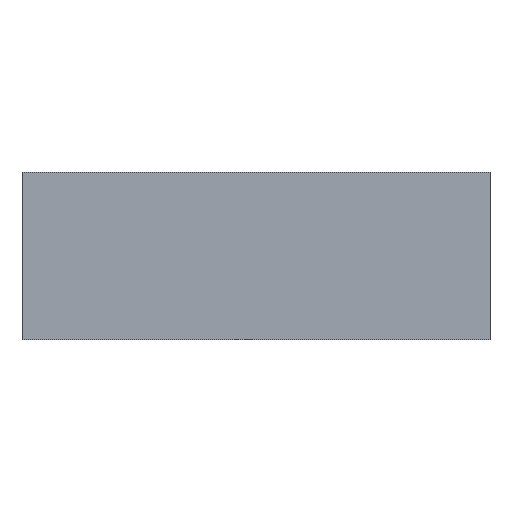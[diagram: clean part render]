
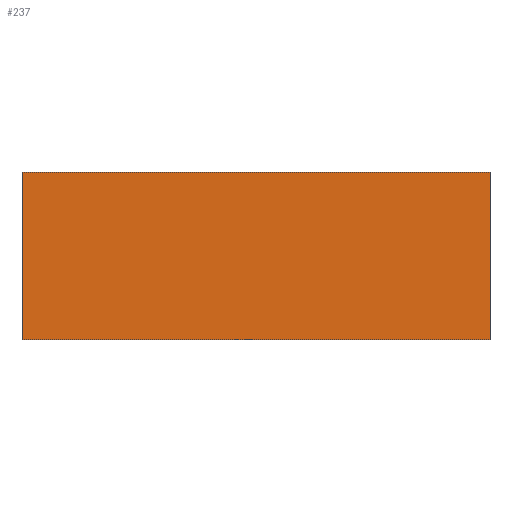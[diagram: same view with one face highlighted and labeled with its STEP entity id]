
A CAD part, front view. The second image highlights one B-rep face of the part: STEP entity #237.
In plain terms, the highlighted planar face has unit normal (0, -1, 0).
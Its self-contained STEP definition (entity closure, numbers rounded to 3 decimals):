
#21 = EDGE_CURVE('',#22,#24,#26,.T.);
#22 = VERTEX_POINT('',#23);
#23 = CARTESIAN_POINT('',(-81.5,107.913,133.));
#24 = VERTEX_POINT('',#25);
#25 = CARTESIAN_POINT('',(-81.5,107.913,143.));
#26 = SURFACE_CURVE('',#27,(#31,#43),.PCURVE_S1.);
#27 = LINE('',#28,#29);
#28 = CARTESIAN_POINT('',(-81.5,107.913,133.));
#29 = VECTOR('',#30,1.);
#30 = DIRECTION('',(0.,0.,1.));
#31 = PCURVE('',#32,#37);
#32 = PLANE('',#33);
#33 = AXIS2_PLACEMENT_3D('',#34,#35,#36);
#34 = CARTESIAN_POINT('',(-81.5,107.913,133.));
#35 = DIRECTION('',(1.,0.,-0.));
#36 = DIRECTION('',(0.,0.,1.));
#37 = DEFINITIONAL_REPRESENTATION('',(#38),#42);
#38 = LINE('',#39,#40);
#39 = CARTESIAN_POINT('',(0.,0.));
#40 = VECTOR('',#41,1.);
#41 = DIRECTION('',(1.,0.));
#42 = ( GEOMETRIC_REPRESENTATION_CONTEXT(2) 
PARAMETRIC_REPRESENTATION_CONTEXT() REPRESENTATION_CONTEXT('2D SPACE',''
  ) );
#43 = PCURVE('',#44,#49);
#44 = PLANE('',#45);
#45 = AXIS2_PLACEMENT_3D('',#46,#47,#48);
#46 = CARTESIAN_POINT('',(-81.5,107.913,133.));
#47 = DIRECTION('',(-0.,1.,0.));
#48 = DIRECTION('',(0.,0.,1.));
#49 = DEFINITIONAL_REPRESENTATION('',(#50),#54);
#50 = LINE('',#51,#52);
#51 = CARTESIAN_POINT('',(0.,0.));
#52 = VECTOR('',#53,1.);
#53 = DIRECTION('',(1.,0.));
#54 = ( GEOMETRIC_REPRESENTATION_CONTEXT(2) 
PARAMETRIC_REPRESENTATION_CONTEXT() REPRESENTATION_CONTEXT('2D SPACE',''
  ) );
#72 = PLANE('',#73);
#73 = AXIS2_PLACEMENT_3D('',#74,#75,#76);
#74 = CARTESIAN_POINT('',(-81.5,107.913,133.));
#75 = DIRECTION('',(0.,0.,1.));
#76 = DIRECTION('',(1.,0.,-0.));
#126 = PLANE('',#127);
#127 = AXIS2_PLACEMENT_3D('',#128,#129,#130);
#128 = CARTESIAN_POINT('',(-81.5,107.913,143.));
#129 = DIRECTION('',(0.,0.,1.));
#130 = DIRECTION('',(1.,0.,-0.));
#141 = EDGE_CURVE('',#142,#144,#146,.T.);
#142 = VERTEX_POINT('',#143);
#143 = CARTESIAN_POINT('',(-53.5,107.913,133.));
#144 = VERTEX_POINT('',#145);
#145 = CARTESIAN_POINT('',(-53.5,107.913,143.));
#146 = SURFACE_CURVE('',#147,(#151,#163),.PCURVE_S1.);
#147 = LINE('',#148,#149);
#148 = CARTESIAN_POINT('',(-53.5,107.913,133.));
#149 = VECTOR('',#150,1.);
#150 = DIRECTION('',(0.,0.,1.));
#151 = PCURVE('',#152,#157);
#152 = PLANE('',#153);
#153 = AXIS2_PLACEMENT_3D('',#154,#155,#156);
#154 = CARTESIAN_POINT('',(-53.5,107.913,133.));
#155 = DIRECTION('',(1.,0.,-0.));
#156 = DIRECTION('',(0.,0.,1.));
#157 = DEFINITIONAL_REPRESENTATION('',(#158),#162);
#158 = LINE('',#159,#160);
#159 = CARTESIAN_POINT('',(0.,0.));
#160 = VECTOR('',#161,1.);
#161 = DIRECTION('',(1.,0.));
#162 = ( GEOMETRIC_REPRESENTATION_CONTEXT(2) 
PARAMETRIC_REPRESENTATION_CONTEXT() REPRESENTATION_CONTEXT('2D SPACE',''
  ) );
#163 = PCURVE('',#44,#164);
#164 = DEFINITIONAL_REPRESENTATION('',(#165),#169);
#165 = LINE('',#166,#167);
#166 = CARTESIAN_POINT('',(0.,28.));
#167 = VECTOR('',#168,1.);
#168 = DIRECTION('',(1.,0.));
#169 = ( GEOMETRIC_REPRESENTATION_CONTEXT(2) 
PARAMETRIC_REPRESENTATION_CONTEXT() REPRESENTATION_CONTEXT('2D SPACE',''
  ) );
#237 = ADVANCED_FACE('',(#238),#44,.F.);
#238 = FACE_BOUND('',#239,.F.);
#239 = EDGE_LOOP('',(#240,#261,#262,#283));
#240 = ORIENTED_EDGE('',*,*,#241,.F.);
#241 = EDGE_CURVE('',#22,#142,#242,.T.);
#242 = SURFACE_CURVE('',#243,(#247,#254),.PCURVE_S1.);
#243 = LINE('',#244,#245);
#244 = CARTESIAN_POINT('',(-81.5,107.913,133.));
#245 = VECTOR('',#246,1.);
#246 = DIRECTION('',(1.,0.,-0.));
#247 = PCURVE('',#44,#248);
#248 = DEFINITIONAL_REPRESENTATION('',(#249),#253);
#249 = LINE('',#250,#251);
#250 = CARTESIAN_POINT('',(0.,0.));
#251 = VECTOR('',#252,1.);
#252 = DIRECTION('',(0.,1.));
#253 = ( GEOMETRIC_REPRESENTATION_CONTEXT(2) 
PARAMETRIC_REPRESENTATION_CONTEXT() REPRESENTATION_CONTEXT('2D SPACE',''
  ) );
#254 = PCURVE('',#72,#255);
#255 = DEFINITIONAL_REPRESENTATION('',(#256),#260);
#256 = LINE('',#257,#258);
#257 = CARTESIAN_POINT('',(0.,0.));
#258 = VECTOR('',#259,1.);
#259 = DIRECTION('',(1.,0.));
#260 = ( GEOMETRIC_REPRESENTATION_CONTEXT(2) 
PARAMETRIC_REPRESENTATION_CONTEXT() REPRESENTATION_CONTEXT('2D SPACE',''
  ) );
#261 = ORIENTED_EDGE('',*,*,#21,.T.);
#262 = ORIENTED_EDGE('',*,*,#263,.T.);
#263 = EDGE_CURVE('',#24,#144,#264,.T.);
#264 = SURFACE_CURVE('',#265,(#269,#276),.PCURVE_S1.);
#265 = LINE('',#266,#267);
#266 = CARTESIAN_POINT('',(-81.5,107.913,143.));
#267 = VECTOR('',#268,1.);
#268 = DIRECTION('',(1.,0.,-0.));
#269 = PCURVE('',#44,#270);
#270 = DEFINITIONAL_REPRESENTATION('',(#271),#275);
#271 = LINE('',#272,#273);
#272 = CARTESIAN_POINT('',(10.,0.));
#273 = VECTOR('',#274,1.);
#274 = DIRECTION('',(0.,1.));
#275 = ( GEOMETRIC_REPRESENTATION_CONTEXT(2) 
PARAMETRIC_REPRESENTATION_CONTEXT() REPRESENTATION_CONTEXT('2D SPACE',''
  ) );
#276 = PCURVE('',#126,#277);
#277 = DEFINITIONAL_REPRESENTATION('',(#278),#282);
#278 = LINE('',#279,#280);
#279 = CARTESIAN_POINT('',(0.,0.));
#280 = VECTOR('',#281,1.);
#281 = DIRECTION('',(1.,0.));
#282 = ( GEOMETRIC_REPRESENTATION_CONTEXT(2) 
PARAMETRIC_REPRESENTATION_CONTEXT() REPRESENTATION_CONTEXT('2D SPACE',''
  ) );
#283 = ORIENTED_EDGE('',*,*,#141,.F.);
